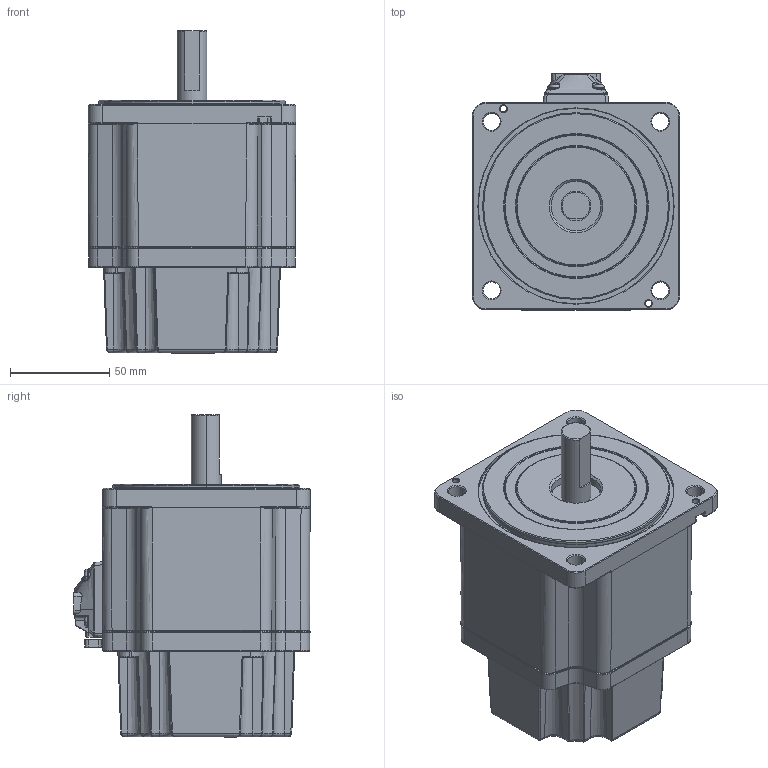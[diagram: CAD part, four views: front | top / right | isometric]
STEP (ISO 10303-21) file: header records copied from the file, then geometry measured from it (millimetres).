
FILE_DESCRIPTION (( 'STEP AP214' ), '1' );
FILE_NAME ('K10XS400N9-B.STEP', '2022-08-10T07:45:09', ( '' ), ( '' ), 'SwSTEP 2.0', 'SolidWorks 2022', '' );
FILE_SCHEMA (( 'AUTOMOTIVE_DESIGN' ));
Length unit declared in the file: millimetre
Products named in the file (9): GASKET-ST01 (2).stp; ACDC_200_400W.stp; M-CASE-RE01ST01.stp; K10XS400N9-B; M3xL12 PH.stp; M-COVER-ST01.stp; BRAKECOVER(90).stp; M4xL12 PH.stp; BRACKET-ST01.stp
Assembly tree (14 placements, depth 3):
  K10XS400N9-B
    ACDC_200_400W.stp
      M-CASE-RE01ST01.stp
      M-COVER-ST01.stp
      BRACKET-ST01.stp
      GASKET-ST01 (2).stp
      M4xL12 PH.stp  x4
      M3xL12 PH.stp  x4
    BRAKECOVER(90).stp
Bounding box: 104.5 x 118.87 x 162.5 mm (x, y, z)
Volume: 854392.8 mm3; surface area: 128258.6 mm2
Topology: 13 solids, 18 shells, 2059 faces, 5398 edges, 3385 vertices
Faces by surface type: cylinder 965, plane 498, bspline 281, torus 158, cone 148, sphere 9
Entity records: 59677 total; most frequent: CARTESIAN_POINT 25124, ORIENTED_EDGE 7518, DIRECTION 6479, EDGE_CURVE 3759, AXIS2_PLACEMENT_3D 2415, VERTEX_POINT 2334, LINE 1649, VECTOR 1649
